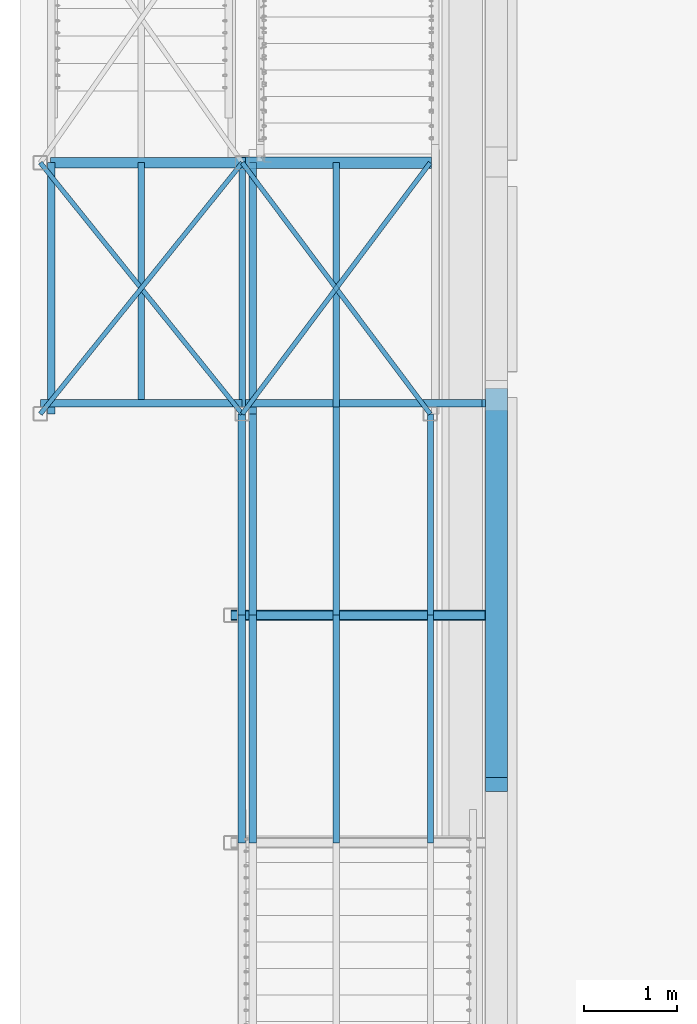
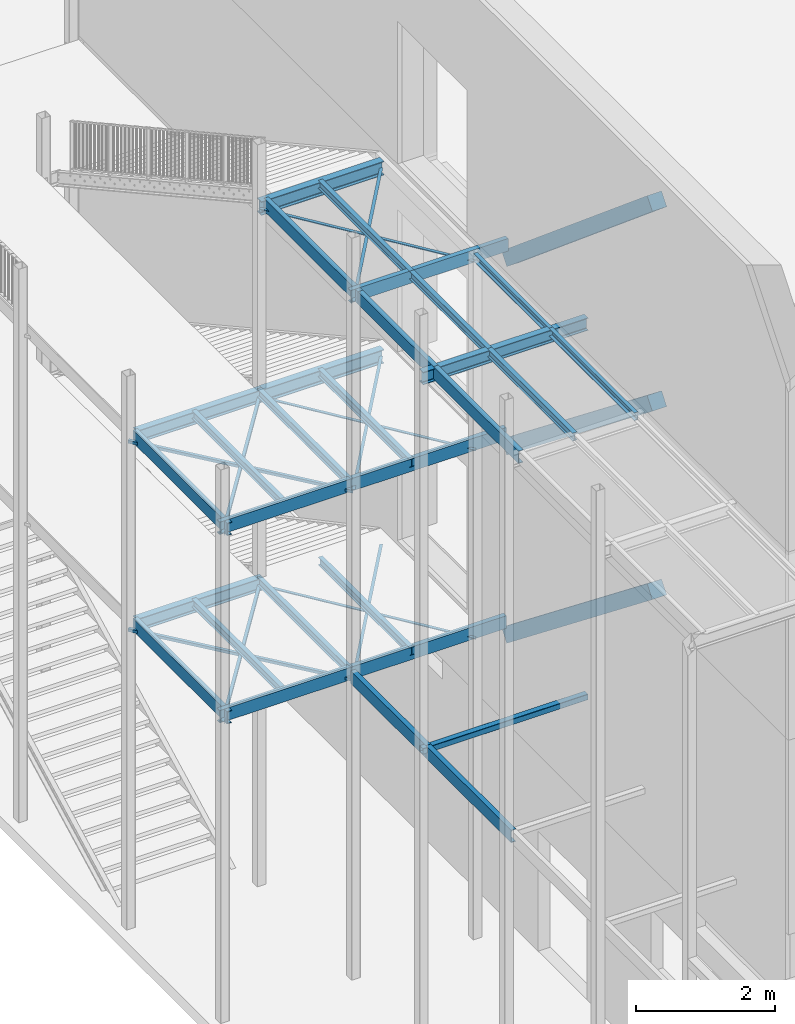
# One storey, part 25 of 78: 39 beams, 3 members, 42 elements without a shape of their own.
"""IFC2X3 building model written with IfcOpenShell, lengths in millimetres."""

from ifc_helpers import new_model, si_unit, frame, origin_with_axes, origin_2d_with_axis, place, context, subcontext, project, spatial, rectangle, hollow_rectangle, i_section, l_section, u_section, extrude, material, type_object, element, aggregate, save


model = new_model("IFC2X3")

# Units and contexts
model_context = context("Model", 3, precision=1e-05, world=origin_with_axes())
body_context = subcontext(model_context, "Body", "Model", "MODEL_VIEW")
ifc_project = project(units=[si_unit("LENGTHUNIT", "METRE", prefix="MILLI"), si_unit("AREAUNIT", "SQUARE_METRE"), si_unit("VOLUMEUNIT", "CUBIC_METRE"), si_unit("MASSUNIT", "GRAM", prefix="KILO"), si_unit("TIMEUNIT", "SECOND"), si_unit("PLANEANGLEUNIT", "RADIAN"), si_unit("SOLIDANGLEUNIT", "STERADIAN"), si_unit("THERMODYNAMICTEMPERATUREUNIT", "DEGREE_CELSIUS"), si_unit("LUMINOUSINTENSITYUNIT", "LUMEN")], contexts=[model_context])

# Site, building, storey
site_placement = place(None, origin_with_axes())
site = spatial("IfcSite", under=ifc_project, at=site_placement, Name="Site", CompositionType="ELEMENT")
building_placement = place(site_placement, origin_with_axes())
building = spatial("IfcBuilding", under=site, at=building_placement, Name="Undefined", CompositionType="ELEMENT")
storey_placement = place(building_placement, origin_with_axes())
storey = spatial("IfcBuildingStorey", under=building, at=storey_placement, Name="Undefined", CompositionType="ELEMENT", Elevation=0.0)

# Assembly, beam
assembly_1_placement = place(storey_placement, origin_with_axes())
assembly_1 = element("IfcElementAssembly", 1, at=assembly_1_placement, inside=storey, AssemblyPlace="NOTDEFINED", PredefinedType="RIGID_FRAME")
ifc_material_1 = material(Name="STEEL/S275JR")
beam_type_1 = type_object("IfcBeamType", Name="UPN220", PredefinedType="NOTDEFINED")
beam_1_placement = place(assembly_1_placement, frame((-33223.4299999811, -955.000000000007, 153260.039237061), z_axis=(0.0, 0.0, -1.0), x_axis=(0.0, -1.0, 0.0)))
beam_1 = element("IfcBeam", 2, at=beam_1_placement, type_object=beam_type_1, material=ifc_material_1, Name="SOLIVE", ObjectType="UPN220", context=body_context, shape_type="SweptSolid", body=[
    extrude(u_section(Depth=220.0, FlangeWidth=80.0, WebThickness=9.0, FlangeThickness=12.5, FilletRadius=12.5, EdgeRadius=6.5, FlangeSlope=0.0798299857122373, at=origin_2d_with_axis()), frame((2447.0, 0.0, 0.0), z_axis=(-1.0, 0.0, 0.0), x_axis=(0.0, -1.0, 0.0)), (0.0, 0.0, 1.0), 2447.0),
])
aggregate(assembly_1, [beam_1])

assembly_2_placement = place(storey_placement, origin_with_axes())
assembly_2 = element("IfcElementAssembly", 3, at=assembly_2_placement, inside=storey, AssemblyPlace="NOTDEFINED", PredefinedType="RIGID_FRAME")
beam_2_placement = place(assembly_2_placement, frame((-33223.43, 1207.99999999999, 153260.039237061), z_axis=(0.0, 0.0, -1.0), x_axis=(0.0, -1.0, 0.0)))
beam_2 = element("IfcBeam", 4, at=beam_2_placement, type_object=beam_type_1, material=ifc_material_1, Name="SOLIVE", ObjectType="UPN220", context=body_context, shape_type="SweptSolid", body=[
    extrude(u_section(Depth=220.0, FlangeWidth=80.0, WebThickness=9.0, FlangeThickness=12.5, FilletRadius=12.5, EdgeRadius=6.5, FlangeSlope=0.0798299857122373, at=origin_2d_with_axis()), frame((2163.0, 0.0, 0.0), z_axis=(-1.0, 0.0, 0.0), x_axis=(0.0, -1.0, 0.0)), (0.0, 0.0, 1.0), 2163.0),
])
aggregate(assembly_2, [beam_2])

assembly_3_placement = place(storey_placement, origin_with_axes())
assembly_3 = element("IfcElementAssembly", 5, at=assembly_3_placement, inside=storey, AssemblyPlace="NOTDEFINED", PredefinedType="RIGID_FRAME")
beam_3_placement = place(assembly_3_placement, frame((-33101.4299999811, -955.000000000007, 159860.039237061), z_axis=(0.0, 0.0, -1.0), x_axis=(0.0, -1.0, 0.0)))
beam_3 = element("IfcBeam", 6, at=beam_3_placement, type_object=beam_type_1, material=ifc_material_1, Name="SOLIVE", ObjectType="UPN220", context=body_context, shape_type="SweptSolid", body=[
    extrude(u_section(Depth=220.0, FlangeWidth=80.0, WebThickness=9.0, FlangeThickness=12.5, FilletRadius=12.5, EdgeRadius=6.5, FlangeSlope=0.0798299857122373, at=origin_2d_with_axis()), frame((2447.0, 0.0, 0.0), z_axis=(-1.0, 0.0, 0.0), x_axis=(0.0, -1.0, 0.0)), (0.0, 0.0, 1.0), 2447.0),
])
aggregate(assembly_3, [beam_3])

assembly_4_placement = place(storey_placement, origin_with_axes())
assembly_4 = element("IfcElementAssembly", 7, at=assembly_4_placement, inside=storey, AssemblyPlace="NOTDEFINED", PredefinedType="RIGID_FRAME")
beam_4_placement = place(assembly_4_placement, frame((-33101.43, 1207.99999999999, 159860.039237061), z_axis=(0.0, 0.0, -1.0), x_axis=(0.0, -1.0, 0.0)))
beam_4 = element("IfcBeam", 8, at=beam_4_placement, type_object=beam_type_1, material=ifc_material_1, Name="SOLIVE", ObjectType="UPN220", context=body_context, shape_type="SweptSolid", body=[
    extrude(u_section(Depth=220.0, FlangeWidth=80.0, WebThickness=9.0, FlangeThickness=12.5, FilletRadius=12.5, EdgeRadius=6.5, FlangeSlope=0.0798299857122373, at=origin_2d_with_axis()), frame((2163.0, 0.0, 0.0), z_axis=(-1.0, 0.0, 0.0), x_axis=(0.0, -1.0, 0.0)), (0.0, 0.0, 1.0), 2163.0),
])
aggregate(assembly_4, [beam_4])

assembly_5_placement = place(storey_placement, origin_with_axes())
assembly_5 = element("IfcElementAssembly", 9, at=assembly_5_placement, inside=storey, AssemblyPlace="NOTDEFINED", PredefinedType="RIGID_FRAME")
beam_5_placement = place(assembly_5_placement, frame((-33216.43, 1323.0, 159860.039237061), z_axis=(0.0, 0.0, -1.0), x_axis=(1.0, 0.0, 0.0)))
beam_5 = element("IfcBeam", 10, at=beam_5_placement, type_object=beam_type_1, material=ifc_material_1, Name="SOLIVE", ObjectType="UPN220", context=body_context, shape_type="SweptSolid", body=[
    extrude(u_section(Depth=220.0, FlangeWidth=80.0, WebThickness=9.0, FlangeThickness=12.5, FilletRadius=12.5, EdgeRadius=6.5, FlangeSlope=0.0798299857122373, at=origin_2d_with_axis()), frame((2613.00000000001, 0.0, 0.0), z_axis=(-1.0, 0.0, 0.0), x_axis=(0.0, -1.0, 0.0)), (0.0, 0.0, 1.0), 2613.0),
])
aggregate(assembly_5, [beam_5])

assembly_6_placement = place(storey_placement, origin_with_axes())
assembly_6 = element("IfcElementAssembly", 11, at=assembly_6_placement, inside=storey, AssemblyPlace="NOTDEFINED", PredefinedType="RIGID_FRAME")
beam_6_placement = place(assembly_6_placement, frame((-33101.43, 3907.99999999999, 159860.039237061), z_axis=(0.0, 0.0, -1.0), x_axis=(0.0, -1.0, 0.0)))
beam_6 = element("IfcBeam", 12, at=beam_6_placement, type_object=beam_type_1, material=ifc_material_1, Name="SOLIVE", ObjectType="UPN220", context=body_context, shape_type="SweptSolid", body=[
    extrude(u_section(Depth=220.0, FlangeWidth=80.0, WebThickness=9.0, FlangeThickness=12.5, FilletRadius=12.5, EdgeRadius=6.5, FlangeSlope=0.0798299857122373, at=origin_2d_with_axis()), frame((2699.99999999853, 0.0, 0.0), z_axis=(-1.0, 0.0, 0.0), x_axis=(0.0, -1.0, 0.0)), (0.0, 0.0, 1.0), 2700.0),
])
aggregate(assembly_6, [beam_6])

assembly_7_placement = place(storey_placement, origin_with_axes())
assembly_7 = element("IfcElementAssembly", 13, at=assembly_7_placement, inside=storey, AssemblyPlace="NOTDEFINED", PredefinedType="RIGID_FRAME")
beam_7_placement = place(assembly_7_placement, frame((-35271.43, 3908.0, 156560.04), z_axis=(0.0, 0.0, -1.0), x_axis=(0.0, -1.0, 0.0)))
beam_7 = element("IfcBeam", 14, at=beam_7_placement, type_object=beam_type_1, material=ifc_material_1, Name="SOLIVE", ObjectType="UPN220", context=body_context, shape_type="SweptSolid", body=[
    extrude(u_section(Depth=220.0, FlangeWidth=80.0, WebThickness=9.0, FlangeThickness=12.5, FilletRadius=12.5, EdgeRadius=6.5, FlangeSlope=0.0798299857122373, at=origin_2d_with_axis()), frame((2699.99999999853, 0.0, 0.0), z_axis=(-1.0, 0.0, 0.0), x_axis=(0.0, -1.0, 0.0)), (0.0, 0.0, 1.0), 2700.0),
])
aggregate(assembly_7, [beam_7])

assembly_8_placement = place(storey_placement, origin_with_axes())
assembly_8 = element("IfcElementAssembly", 15, at=assembly_8_placement, inside=storey, AssemblyPlace="NOTDEFINED", PredefinedType="RIGID_FRAME")
beam_8_placement = place(assembly_8_placement, frame((-33216.43, 1323.0, 156560.04), z_axis=(0.0, 0.0, -1.0), x_axis=(1.0, 0.0, 0.0)))
beam_8 = element("IfcBeam", 16, at=beam_8_placement, type_object=beam_type_1, material=ifc_material_1, Name="SOLIVE", ObjectType="UPN220", context=body_context, shape_type="SweptSolid", body=[
    extrude(u_section(Depth=220.0, FlangeWidth=80.0, WebThickness=9.0, FlangeThickness=12.5, FilletRadius=12.5, EdgeRadius=6.5, FlangeSlope=0.0798299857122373, at=origin_2d_with_axis()), frame((2579.43, 0.0, 0.0), z_axis=(-1.0, 0.0, 0.0), x_axis=(0.0, -1.0, 0.0)), (0.0, 0.0, 1.0), 2579.43),
])
aggregate(assembly_8, [beam_8])

assembly_9_placement = place(storey_placement, origin_with_axes())
assembly_9 = element("IfcElementAssembly", 17, at=assembly_9_placement, inside=storey, AssemblyPlace="NOTDEFINED", PredefinedType="RIGID_FRAME")
beam_9_placement = place(assembly_9_placement, frame((-35386.43, 1323.0, 156560.04), z_axis=(0.0, 0.0, -1.0), x_axis=(1.0, 0.0, 0.0)))
beam_9 = element("IfcBeam", 18, at=beam_9_placement, type_object=beam_type_1, material=ifc_material_1, Name="SOLIVE", ObjectType="UPN220", context=body_context, shape_type="SweptSolid", body=[
    extrude(u_section(Depth=220.0, FlangeWidth=80.0, WebThickness=9.0, FlangeThickness=12.5, FilletRadius=12.5, EdgeRadius=6.5, FlangeSlope=0.0798299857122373, at=origin_2d_with_axis()), frame((2169.99999999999, 0.0, 0.0), z_axis=(-1.0, 0.0, 0.0), x_axis=(0.0, -1.0, 0.0)), (0.0, 0.0, 1.0), 2170.0),
])
aggregate(assembly_9, [beam_9])

assembly_10_placement = place(storey_placement, origin_with_axes())
assembly_10 = element("IfcElementAssembly", 19, at=assembly_10_placement, inside=storey, AssemblyPlace="NOTDEFINED", PredefinedType="RIGID_FRAME")
beam_10_placement = place(assembly_10_placement, frame((-35271.43, 3908.0, 153260.04), z_axis=(0.0, 0.0, -1.0), x_axis=(0.0, -1.0, 0.0)))
beam_10 = element("IfcBeam", 20, at=beam_10_placement, type_object=beam_type_1, material=ifc_material_1, Name="SOLIVE", ObjectType="UPN220", context=body_context, shape_type="SweptSolid", body=[
    extrude(u_section(Depth=220.0, FlangeWidth=80.0, WebThickness=9.0, FlangeThickness=12.5, FilletRadius=12.5, EdgeRadius=6.5, FlangeSlope=0.0798299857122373, at=origin_2d_with_axis()), frame((2699.99999999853, 0.0, 0.0), z_axis=(-1.0, 0.0, 0.0), x_axis=(0.0, -1.0, 0.0)), (0.0, 0.0, 1.0), 2700.0),
])
aggregate(assembly_10, [beam_10])

assembly_11_placement = place(storey_placement, origin_with_axes())
assembly_11 = element("IfcElementAssembly", 21, at=assembly_11_placement, inside=storey, AssemblyPlace="NOTDEFINED", PredefinedType="RIGID_FRAME")
beam_11_placement = place(assembly_11_placement, frame((-33216.43, 1323.0, 153260.04), z_axis=(0.0, 0.0, -1.0), x_axis=(1.0, 0.0, 0.0)))
beam_11 = element("IfcBeam", 22, at=beam_11_placement, type_object=beam_type_1, material=ifc_material_1, Name="SOLIVE", ObjectType="UPN220", context=body_context, shape_type="SweptSolid", body=[
    extrude(u_section(Depth=220.0, FlangeWidth=80.0, WebThickness=9.0, FlangeThickness=12.5, FilletRadius=12.5, EdgeRadius=6.5, FlangeSlope=0.0798299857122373, at=origin_2d_with_axis()), frame((2579.43, 0.0, 0.0), z_axis=(-1.0, 0.0, 0.0), x_axis=(0.0, -1.0, 0.0)), (0.0, 0.0, 1.0), 2579.43),
])
aggregate(assembly_11, [beam_11])

assembly_12_placement = place(storey_placement, origin_with_axes())
assembly_12 = element("IfcElementAssembly", 23, at=assembly_12_placement, inside=storey, AssemblyPlace="NOTDEFINED", PredefinedType="RIGID_FRAME")
beam_12_placement = place(assembly_12_placement, frame((-35386.43, 1323.0, 153260.04), z_axis=(0.0, 0.0, -1.0), x_axis=(1.0, 0.0, 0.0)))
beam_12 = element("IfcBeam", 24, at=beam_12_placement, type_object=beam_type_1, material=ifc_material_1, Name="SOLIVE", ObjectType="UPN220", context=body_context, shape_type="SweptSolid", body=[
    extrude(u_section(Depth=220.0, FlangeWidth=80.0, WebThickness=9.0, FlangeThickness=12.5, FilletRadius=12.5, EdgeRadius=6.5, FlangeSlope=0.0798299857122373, at=origin_2d_with_axis()), frame((2169.99999999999, 0.0, 0.0), z_axis=(-1.0, 0.0, 0.0), x_axis=(0.0, -1.0, 0.0)), (0.0, 0.0, 1.0), 2170.0),
])
aggregate(assembly_12, [beam_12])

assembly_13_placement = place(storey_placement, origin_with_axes())
assembly_13 = element("IfcElementAssembly", 25, at=assembly_13_placement, inside=storey, Name="STAB", AssemblyPlace="NOTDEFINED", PredefinedType="RIGID_FRAME")
beam_type_2 = type_object("IfcBeamType", Name="L50*5", PredefinedType="NOTDEFINED")
beam_13_placement = place(assembly_13_placement, frame((-31196.4299999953, 1208.00000000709, 159805.039237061), z_axis=(0.0, 0.0, -1.0), x_axis=(-0.599050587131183, 0.800711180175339, 0.0)))
beam_13 = element("IfcBeam", 26, at=beam_13_placement, type_object=beam_type_2, material=ifc_material_1, Name="STAB", ObjectType="L50*5", context=body_context, shape_type="SweptSolid", body=[
    extrude(l_section(Depth=50.0, Width=50.0, Thickness=5.0, FilletRadius=7.0, EdgeRadius=3.5, at=origin_2d_with_axis()), frame((3372.00237247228, 1.87183733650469e-13, 0.0), z_axis=(-1.0, 0.0, 0.0), x_axis=(0.0, -1.0, 0.0)), (0.0, 0.0, 1.0), 3372.0),
])
aggregate(assembly_13, [beam_13])

assembly_14_placement = place(storey_placement, origin_with_axes())
assembly_14 = element("IfcElementAssembly", 27, at=assembly_14_placement, inside=storey, Name="STAB", AssemblyPlace="NOTDEFINED", PredefinedType="RIGID_FRAME")
beam_14_placement = place(assembly_14_placement, frame((-31196.4300000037, 3908.00000004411, 159805.039237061), z_axis=(0.0, 0.0, -1.0), x_axis=(-0.599050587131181, -0.800711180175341, 0.0)))
beam_14 = element("IfcBeam", 28, at=beam_14_placement, type_object=beam_type_2, material=ifc_material_1, Name="STAB", ObjectType="L50*5", context=body_context, shape_type="SweptSolid", body=[
    extrude(l_section(Depth=50.0, Width=50.0, Thickness=5.0, FilletRadius=7.0, EdgeRadius=3.5, at=origin_2d_with_axis()), frame((3372.00237247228, 1.87183733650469e-13, 0.0), z_axis=(-1.0, 0.0, 0.0), x_axis=(0.0, -1.0, 0.0)), (0.0, 0.0, 1.0), 3372.0),
])
aggregate(assembly_14, [beam_14])

assembly_15_placement = place(storey_placement, origin_with_axes())
assembly_15 = element("IfcElementAssembly", 29, at=assembly_15_placement, inside=storey, Name="STAB", AssemblyPlace="NOTDEFINED", PredefinedType="RIGID_FRAME")
beam_15_placement = place(assembly_15_placement, frame((-31196.4299999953, 1208.0000000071, 156505.04), z_axis=(0.0, 0.0, -1.0), x_axis=(-0.599050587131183, 0.800711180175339, 0.0)))
beam_15 = element("IfcBeam", 30, at=beam_15_placement, type_object=beam_type_2, material=ifc_material_1, Name="STAB", ObjectType="L50*5", context=body_context, shape_type="SweptSolid", body=[
    extrude(l_section(Depth=50.0, Width=50.0, Thickness=5.0, FilletRadius=7.0, EdgeRadius=3.5, at=origin_2d_with_axis()), frame((3372.00237247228, 1.87183733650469e-13, 0.0), z_axis=(-1.0, 0.0, 0.0), x_axis=(0.0, -1.0, 0.0)), (0.0, 0.0, 1.0), 3372.0),
])
aggregate(assembly_15, [beam_15])

assembly_16_placement = place(storey_placement, origin_with_axes())
assembly_16 = element("IfcElementAssembly", 31, at=assembly_16_placement, inside=storey, Name="STAB", AssemblyPlace="NOTDEFINED", PredefinedType="RIGID_FRAME")
beam_16_placement = place(assembly_16_placement, frame((-31196.4300000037, 3908.00000004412, 156505.04), z_axis=(0.0, 0.0, -1.0), x_axis=(-0.599050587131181, -0.800711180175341, 0.0)))
beam_16 = element("IfcBeam", 32, at=beam_16_placement, type_object=beam_type_2, material=ifc_material_1, Name="STAB", ObjectType="L50*5", context=body_context, shape_type="SweptSolid", body=[
    extrude(l_section(Depth=50.0, Width=50.0, Thickness=5.0, FilletRadius=7.0, EdgeRadius=3.5, at=origin_2d_with_axis()), frame((3372.00237247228, 1.87183733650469e-13, 0.0), z_axis=(-1.0, 0.0, 0.0), x_axis=(0.0, -1.0, 0.0)), (0.0, 0.0, 1.0), 3372.0),
])
aggregate(assembly_16, [beam_16])

assembly_17_placement = place(storey_placement, origin_with_axes())
assembly_17 = element("IfcElementAssembly", 33, at=assembly_17_placement, inside=storey, Name="STAB", AssemblyPlace="NOTDEFINED", PredefinedType="RIGID_FRAME")
beam_17_placement = place(assembly_17_placement, frame((-31196.4299999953, 1208.0000000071, 153205.04), z_axis=(0.0, 0.0, -1.0), x_axis=(-0.599050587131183, 0.800711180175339, 0.0)))
beam_17 = element("IfcBeam", 34, at=beam_17_placement, type_object=beam_type_2, material=ifc_material_1, Name="STAB", ObjectType="L50*5", context=body_context, shape_type="SweptSolid", body=[
    extrude(l_section(Depth=50.0, Width=50.0, Thickness=5.0, FilletRadius=7.0, EdgeRadius=3.5, at=origin_2d_with_axis()), frame((3372.00237247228, 1.87183733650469e-13, 0.0), z_axis=(-1.0, 0.0, 0.0), x_axis=(0.0, -1.0, 0.0)), (0.0, 0.0, 1.0), 3372.0),
])
aggregate(assembly_17, [beam_17])

assembly_18_placement = place(storey_placement, origin_with_axes())
assembly_18 = element("IfcElementAssembly", 35, at=assembly_18_placement, inside=storey, Name="STAB", AssemblyPlace="NOTDEFINED", PredefinedType="RIGID_FRAME")
beam_18_placement = place(assembly_18_placement, frame((-31196.4300000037, 3908.00000004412, 153205.04), z_axis=(0.0, 0.0, -1.0), x_axis=(-0.599050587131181, -0.800711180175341, 0.0)))
beam_18 = element("IfcBeam", 36, at=beam_18_placement, type_object=beam_type_2, material=ifc_material_1, Name="STAB", ObjectType="L50*5", context=body_context, shape_type="SweptSolid", body=[
    extrude(l_section(Depth=50.0, Width=50.0, Thickness=5.0, FilletRadius=7.0, EdgeRadius=3.5, at=origin_2d_with_axis()), frame((3372.00237247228, 1.87183733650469e-13, 0.0), z_axis=(-1.0, 0.0, 0.0), x_axis=(0.0, -1.0, 0.0)), (0.0, 0.0, 1.0), 3372.0),
])
aggregate(assembly_18, [beam_18])

assembly_19_placement = place(storey_placement, origin_with_axes())
assembly_19 = element("IfcElementAssembly", 37, at=assembly_19_placement, inside=storey, Name="STAB", AssemblyPlace="NOTDEFINED", PredefinedType="RIGID_FRAME")
beam_19_placement = place(assembly_19_placement, frame((-35386.4299999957, 1208.00000000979, 156505.04), z_axis=(0.0, 0.0, -1.0), x_axis=(0.626453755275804, 0.779458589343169, 0.0)))
beam_19 = element("IfcBeam", 38, at=beam_19_placement, type_object=beam_type_2, material=ifc_material_1, Name="STAB", ObjectType="L50*5", context=body_context, shape_type="SweptSolid", body=[
    extrude(l_section(Depth=50.0, Width=50.0, Thickness=5.0, FilletRadius=7.0, EdgeRadius=3.5, at=origin_2d_with_axis()), frame((3463.94284017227, 0.0, 2.91038304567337e-11), z_axis=(-1.0, 0.0, 0.0), x_axis=(0.0, -1.0, 0.0)), (0.0, 0.0, 1.0), 3463.94),
])
aggregate(assembly_19, [beam_19])

assembly_20_placement = place(storey_placement, origin_with_axes())
assembly_20 = element("IfcElementAssembly", 39, at=assembly_20_placement, inside=storey, Name="STAB", AssemblyPlace="NOTDEFINED", PredefinedType="RIGID_FRAME")
beam_20_placement = place(assembly_20_placement, frame((-35386.4300000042, 3907.99999997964, 156505.04), z_axis=(0.0, 0.0, -1.0), x_axis=(0.626453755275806, -0.779458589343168, 0.0)))
beam_20 = element("IfcBeam", 40, at=beam_20_placement, type_object=beam_type_2, material=ifc_material_1, Name="STAB", ObjectType="L50*5", context=body_context, shape_type="SweptSolid", body=[
    extrude(l_section(Depth=50.0, Width=50.0, Thickness=5.0, FilletRadius=7.0, EdgeRadius=3.5, at=origin_2d_with_axis()), frame((3463.94284017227, 0.0, 2.91038304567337e-11), z_axis=(-1.0, 0.0, 0.0), x_axis=(0.0, -1.0, 0.0)), (0.0, 0.0, 1.0), 3463.94),
])
aggregate(assembly_20, [beam_20])

assembly_21_placement = place(storey_placement, origin_with_axes())
assembly_21 = element("IfcElementAssembly", 41, at=assembly_21_placement, inside=storey, Name="STAB", AssemblyPlace="NOTDEFINED", PredefinedType="RIGID_FRAME")
beam_21_placement = place(assembly_21_placement, frame((-35386.4299999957, 1208.00000000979, 153205.04), z_axis=(0.0, 0.0, -1.0), x_axis=(0.626453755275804, 0.779458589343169, 0.0)))
beam_21 = element("IfcBeam", 42, at=beam_21_placement, type_object=beam_type_2, material=ifc_material_1, Name="STAB", ObjectType="L50*5", context=body_context, shape_type="SweptSolid", body=[
    extrude(l_section(Depth=50.0, Width=50.0, Thickness=5.0, FilletRadius=7.0, EdgeRadius=3.5, at=origin_2d_with_axis()), frame((3463.94284017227, 0.0, 2.91038304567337e-11), z_axis=(-1.0, 0.0, 0.0), x_axis=(0.0, -1.0, 0.0)), (0.0, 0.0, 1.0), 3463.94),
])
aggregate(assembly_21, [beam_21])

assembly_22_placement = place(storey_placement, origin_with_axes())
assembly_22 = element("IfcElementAssembly", 43, at=assembly_22_placement, inside=storey, Name="STAB", AssemblyPlace="NOTDEFINED", PredefinedType="RIGID_FRAME")
beam_22_placement = place(assembly_22_placement, frame((-35386.4300000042, 3907.99999997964, 153205.04), z_axis=(0.0, 0.0, -1.0), x_axis=(0.626453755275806, -0.779458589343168, 0.0)))
beam_22 = element("IfcBeam", 44, at=beam_22_placement, type_object=beam_type_2, material=ifc_material_1, Name="STAB", ObjectType="L50*5", context=body_context, shape_type="SweptSolid", body=[
    extrude(l_section(Depth=50.0, Width=50.0, Thickness=5.0, FilletRadius=7.0, EdgeRadius=3.5, at=origin_2d_with_axis()), frame((3463.94284017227, 0.0, 2.91038304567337e-11), z_axis=(-1.0, 0.0, 0.0), x_axis=(0.0, -1.0, 0.0)), (0.0, 0.0, 1.0), 3463.94),
])
aggregate(assembly_22, [beam_22])

assembly_23_placement = place(storey_placement, origin_with_axes())
assembly_23 = element("IfcElementAssembly", 45, at=assembly_23_placement, inside=storey, AssemblyPlace="NOTDEFINED", PredefinedType="RIGID_FRAME")
beam_type_3 = type_object("IfcBeamType", Name="IPE140", PredefinedType="NOTDEFINED")
beam_23_placement = place(assembly_23_placement, frame((-32206.4299999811, -3402.00000000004, 159900.039237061), z_axis=(0.0, 0.0, -1.0), x_axis=(0.0, 1.0, 0.0)))
beam_23 = element("IfcBeam", 46, at=beam_23_placement, type_object=beam_type_3, material=ifc_material_1, Name="SOLIVE", ObjectType="IPE140", context=body_context, shape_type="SweptSolid", body=[
    extrude(i_section(OverallWidth=73.0, OverallDepth=140.0, WebThickness=4.699999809, FlangeThickness=6.900000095, FilletRadius=7.0, at=origin_2d_with_axis()), frame((2447.0, 0.0, 0.0), z_axis=(-1.0, 0.0, 0.0), x_axis=(0.0, -1.0, 0.0)), (0.0, 0.0, 1.0), 2447.0),
])
aggregate(assembly_23, [beam_23])

assembly_24_placement = place(storey_placement, origin_with_axes())
assembly_24 = element("IfcElementAssembly", 47, at=assembly_24_placement, inside=storey, AssemblyPlace="NOTDEFINED", PredefinedType="RIGID_FRAME")
beam_24_placement = place(assembly_24_placement, frame((-32206.43, -955.000000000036, 159900.039237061), z_axis=(0.0, 0.0, -1.0), x_axis=(0.0, 1.0, 0.0)))
beam_24 = element("IfcBeam", 48, at=beam_24_placement, type_object=beam_type_3, material=ifc_material_1, Name="SOLIVE", ObjectType="IPE140", context=body_context, shape_type="SweptSolid", body=[
    extrude(i_section(OverallWidth=73.0, OverallDepth=140.0, WebThickness=4.699999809, FlangeThickness=6.900000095, FilletRadius=7.0, at=origin_2d_with_axis()), frame((2238.0, 0.0, 0.0), z_axis=(-1.0, 0.0, 0.0), x_axis=(0.0, -1.0, 0.0)), (0.0, 0.0, 1.0), 2238.0),
])
aggregate(assembly_24, [beam_24])

assembly_25_placement = place(storey_placement, origin_with_axes())
assembly_25 = element("IfcElementAssembly", 49, at=assembly_25_placement, inside=storey, AssemblyPlace="NOTDEFINED", PredefinedType="RIGID_FRAME")
beam_25_placement = place(assembly_25_placement, frame((-32206.43, 1282.99999999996, 159900.039237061), z_axis=(0.0, 0.0, -1.0), x_axis=(0.0, 1.0, 0.0)))
beam_25 = element("IfcBeam", 50, at=beam_25_placement, type_object=beam_type_3, material=ifc_material_1, Name="SOLIVE", ObjectType="IPE140", context=body_context, shape_type="SweptSolid", body=[
    extrude(i_section(OverallWidth=73.0, OverallDepth=140.0, WebThickness=4.699999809, FlangeThickness=6.900000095, FilletRadius=7.0, at=origin_2d_with_axis()), frame((2625.0, 0.0, 0.0), z_axis=(-1.0, 0.0, 0.0), x_axis=(0.0, -1.0, 0.0)), (0.0, 0.0, 1.0), 2625.0),
])
aggregate(assembly_25, [beam_25])

assembly_26_placement = place(storey_placement, origin_with_axes())
assembly_26 = element("IfcElementAssembly", 51, at=assembly_26_placement, inside=storey, AssemblyPlace="NOTDEFINED", PredefinedType="RIGID_FRAME")
beam_26_placement = place(assembly_26_placement, frame((-32206.43, 1282.99999999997, 156600.04), z_axis=(0.0, 0.0, -1.0), x_axis=(0.0, 1.0, 0.0)))
beam_26 = element("IfcBeam", 52, at=beam_26_placement, type_object=beam_type_3, material=ifc_material_1, Name="SOLIVE", ObjectType="IPE140", context=body_context, shape_type="SweptSolid", body=[
    extrude(i_section(OverallWidth=73.0, OverallDepth=140.0, WebThickness=4.699999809, FlangeThickness=6.900000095, FilletRadius=7.0, at=origin_2d_with_axis()), frame((2625.0, 0.0, 0.0), z_axis=(-1.0, 0.0, 0.0), x_axis=(0.0, -1.0, 0.0)), (0.0, 0.0, 1.0), 2625.0),
])
aggregate(assembly_26, [beam_26])

assembly_27_placement = place(storey_placement, origin_with_axes())
assembly_27 = element("IfcElementAssembly", 53, at=assembly_27_placement, inside=storey, AssemblyPlace="NOTDEFINED", PredefinedType="RIGID_FRAME")
beam_27_placement = place(assembly_27_placement, frame((-32206.43, 1282.99999999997, 153300.04), z_axis=(0.0, 0.0, -1.0), x_axis=(0.0, 1.0, 0.0)))
beam_27 = element("IfcBeam", 54, at=beam_27_placement, type_object=beam_type_3, material=ifc_material_1, Name="SOLIVE", ObjectType="IPE140", context=body_context, shape_type="SweptSolid", body=[
    extrude(i_section(OverallWidth=73.0, OverallDepth=140.0, WebThickness=4.699999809, FlangeThickness=6.900000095, FilletRadius=7.0, at=origin_2d_with_axis()), frame((2625.0, 0.0, 0.0), z_axis=(-1.0, 0.0, 0.0), x_axis=(0.0, -1.0, 0.0)), (0.0, 0.0, 1.0), 2625.0),
])
aggregate(assembly_27, [beam_27])

assembly_28_placement = place(storey_placement, origin_with_axes())
assembly_28 = element("IfcElementAssembly", 55, at=assembly_28_placement, inside=storey, AssemblyPlace="NOTDEFINED", PredefinedType="RIGID_FRAME")
beam_28_placement = place(assembly_28_placement, frame((-33216.43, 3908.0, 156600.04), z_axis=(0.0, 0.0, -1.0), x_axis=(0.0, -1.0, 0.0)))
beam_28 = element("IfcBeam", 56, at=beam_28_placement, type_object=beam_type_3, material=ifc_material_1, Name="SOLIVE", ObjectType="IPE140", context=body_context, shape_type="SweptSolid", body=[
    extrude(i_section(OverallWidth=73.0, OverallDepth=140.0, WebThickness=4.699999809, FlangeThickness=6.900000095, FilletRadius=7.0, at=origin_2d_with_axis()), frame((2625.0, 0.0, 0.0), z_axis=(-1.0, 0.0, 0.0), x_axis=(0.0, -1.0, 0.0)), (0.0, 0.0, 1.0), 2625.0),
])
aggregate(assembly_28, [beam_28])

assembly_29_placement = place(storey_placement, origin_with_axes())
assembly_29 = element("IfcElementAssembly", 57, at=assembly_29_placement, inside=storey, AssemblyPlace="NOTDEFINED", PredefinedType="RIGID_FRAME")
beam_29_placement = place(assembly_29_placement, frame((-34301.43, 3908.0, 156600.04), z_axis=(0.0, 0.0, -1.0), x_axis=(0.0, -1.0, 0.0)))
beam_29 = element("IfcBeam", 58, at=beam_29_placement, type_object=beam_type_3, material=ifc_material_1, Name="SOLIVE", ObjectType="IPE140", context=body_context, shape_type="SweptSolid", body=[
    extrude(i_section(OverallWidth=73.0, OverallDepth=140.0, WebThickness=4.699999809, FlangeThickness=6.900000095, FilletRadius=7.0, at=origin_2d_with_axis()), frame((2625.0, 0.0, 0.0), z_axis=(-1.0, 0.0, 0.0), x_axis=(0.0, -1.0, 0.0)), (0.0, 0.0, 1.0), 2625.0),
])
aggregate(assembly_29, [beam_29])

assembly_30_placement = place(storey_placement, origin_with_axes())
assembly_30 = element("IfcElementAssembly", 59, at=assembly_30_placement, inside=storey, AssemblyPlace="NOTDEFINED", PredefinedType="RIGID_FRAME")
beam_30_placement = place(assembly_30_placement, frame((-33216.43, 3908.0, 153300.04), z_axis=(0.0, 0.0, -1.0), x_axis=(0.0, -1.0, 0.0)))
beam_30 = element("IfcBeam", 60, at=beam_30_placement, type_object=beam_type_3, material=ifc_material_1, Name="SOLIVE", ObjectType="IPE140", context=body_context, shape_type="SweptSolid", body=[
    extrude(i_section(OverallWidth=73.0, OverallDepth=140.0, WebThickness=4.699999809, FlangeThickness=6.900000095, FilletRadius=7.0, at=origin_2d_with_axis()), frame((2625.0, 0.0, 0.0), z_axis=(-1.0, 0.0, 0.0), x_axis=(0.0, -1.0, 0.0)), (0.0, 0.0, 1.0), 2625.0),
])
aggregate(assembly_30, [beam_30])

assembly_31_placement = place(storey_placement, origin_with_axes())
assembly_31 = element("IfcElementAssembly", 61, at=assembly_31_placement, inside=storey, AssemblyPlace="NOTDEFINED", PredefinedType="RIGID_FRAME")
beam_31_placement = place(assembly_31_placement, frame((-34301.43, 3908.0, 153300.04), z_axis=(0.0, 0.0, -1.0), x_axis=(0.0, -1.0, 0.0)))
beam_31 = element("IfcBeam", 62, at=beam_31_placement, type_object=beam_type_3, material=ifc_material_1, Name="SOLIVE", ObjectType="IPE140", context=body_context, shape_type="SweptSolid", body=[
    extrude(i_section(OverallWidth=73.0, OverallDepth=140.0, WebThickness=4.699999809, FlangeThickness=6.900000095, FilletRadius=7.0, at=origin_2d_with_axis()), frame((2625.0, 0.0, 0.0), z_axis=(-1.0, 0.0, 0.0), x_axis=(0.0, -1.0, 0.0)), (0.0, 0.0, 1.0), 2625.0),
])
aggregate(assembly_31, [beam_31])

assembly_32_placement = place(storey_placement, origin_with_axes())
assembly_32 = element("IfcElementAssembly", 63, at=assembly_32_placement, inside=storey, AssemblyPlace="NOTDEFINED", PredefinedType="RIGID_FRAME")
beam_type_4 = type_object("IfcBeamType", Name="UPN140", PredefinedType="NOTDEFINED")
beam_32_placement = place(assembly_32_placement, frame((-31192.8599999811, -955.000000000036, 159900.039237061), z_axis=(0.0, 0.0, 1.0), x_axis=(0.0, -1.0, 0.0)))
beam_32 = element("IfcBeam", 64, at=beam_32_placement, type_object=beam_type_4, material=ifc_material_1, Name="SOLIVE", ObjectType="UPN140", context=body_context, shape_type="SweptSolid", body=[
    extrude(u_section(Depth=140.0, FlangeWidth=60.0, WebThickness=7.0, FlangeThickness=10.0, FilletRadius=10.0, EdgeRadius=5.0, FlangeSlope=0.0798299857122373, at=origin_2d_with_axis()), frame((2447.0, 0.0, 0.0), z_axis=(-1.0, 0.0, 0.0), x_axis=(0.0, -1.0, 0.0)), (0.0, 0.0, 1.0), 2447.0),
])
aggregate(assembly_32, [beam_32])

assembly_33_placement = place(storey_placement, origin_with_axes())
assembly_33 = element("IfcElementAssembly", 65, at=assembly_33_placement, inside=storey, AssemblyPlace="NOTDEFINED", PredefinedType="RIGID_FRAME")
beam_33_placement = place(assembly_33_placement, frame((-31192.86, 1207.99999999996, 159900.039237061), z_axis=(0.0, 0.0, 1.0), x_axis=(0.0, -1.0, 0.0)))
beam_33 = element("IfcBeam", 66, at=beam_33_placement, type_object=beam_type_4, material=ifc_material_1, Name="SOLIVE", ObjectType="UPN140", context=body_context, shape_type="SweptSolid", body=[
    extrude(u_section(Depth=140.0, FlangeWidth=60.0, WebThickness=7.0, FlangeThickness=10.0, FilletRadius=10.0, EdgeRadius=5.0, FlangeSlope=0.0798299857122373, at=origin_2d_with_axis()), frame((2163.0, 0.0, 0.0), z_axis=(-1.0, 0.0, 0.0), x_axis=(0.0, -1.0, 0.0)), (0.0, 0.0, 1.0), 2163.0),
])
aggregate(assembly_33, [beam_33])

# Assembly, member
assembly_34_placement = place(storey_placement, origin_with_axes())
assembly_34 = element("IfcElementAssembly", 67, at=assembly_34_placement, inside=storey, Name="POUTRE", AssemblyPlace="NOTDEFINED", PredefinedType="NOTDEFINED")
ifc_material_2 = material(Name="TIMBER/CHENE")
member_type = type_object("IfcMemberType", Name="240*240", PredefinedType="NOTDEFINED")
member_1_placement = place(assembly_34_placement, frame((-30483.4327932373, -2775.00119148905, 156240.043102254), z_axis=(0.0, 0.619644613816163, 0.784882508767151), x_axis=(0.0, 0.784882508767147, -0.619644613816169)))
member_1 = element("IfcMember", 68, at=member_1_placement, type_object=member_type, material=ifc_material_2, Name="POUTRE", ObjectType="240*240", context=body_context, shape_type="SweptSolid", body=[
    extrude(rectangle(XDim=240.0, YDim=240.0, at=origin_2d_with_axis()), frame((5325.63824287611, 0.0, 0.0), z_axis=(-1.0, 0.0, 0.0), x_axis=(0.0, -1.0, 0.0)), (0.0, 0.0, 1.0), 5325.64),
])
aggregate(assembly_34, [member_1])

assembly_35_placement = place(storey_placement, origin_with_axes())
assembly_35 = element("IfcElementAssembly", 69, at=assembly_35_placement, inside=storey, Name="POUTRE", AssemblyPlace="NOTDEFINED", PredefinedType="NOTDEFINED")
member_2_placement = place(assembly_35_placement, frame((-30483.4327932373, -2775.00119183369, 159540.046154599), z_axis=(0.0, 0.619644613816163, 0.784882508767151), x_axis=(0.0, 0.784882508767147, -0.619644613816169)))
member_2 = element("IfcMember", 70, at=member_2_placement, type_object=member_type, material=ifc_material_2, Name="POUTRE", ObjectType="240*240", context=body_context, shape_type="SweptSolid", body=[
    extrude(rectangle(XDim=240.0, YDim=240.0, at=origin_2d_with_axis()), frame((5325.63824287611, 0.0, 0.0), z_axis=(-1.0, 0.0, 0.0), x_axis=(0.0, -1.0, 0.0)), (0.0, 0.0, 1.0), 5325.64),
])
aggregate(assembly_35, [member_2])

assembly_36_placement = place(storey_placement, origin_with_axes())
assembly_36 = element("IfcElementAssembly", 71, at=assembly_36_placement, inside=storey, Name="POUTRE", AssemblyPlace="NOTDEFINED", PredefinedType="NOTDEFINED")
member_3_placement = place(assembly_36_placement, frame((-30483.4327932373, -2774.99826653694, 163042.219327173), z_axis=(0.0, 0.642222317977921, 0.766518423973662), x_axis=(0.0, 0.766518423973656, -0.642222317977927)))
member_3 = element("IfcMember", 72, at=member_3_placement, type_object=member_type, material=ifc_material_2, Name="POUTRE", ObjectType="240*240", context=body_context, shape_type="SweptSolid", body=[
    extrude(rectangle(XDim=240.0, YDim=240.0, at=origin_2d_with_axis()), frame((5453.22376859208, 0.0, 0.0), z_axis=(-1.0, 0.0, 0.0), x_axis=(0.0, -1.0, 0.0)), (0.0, 0.0, 1.0), 5453.22),
])
aggregate(assembly_36, [member_3])

# Assembly, beam
assembly_37_placement = place(storey_placement, origin_with_axes())
assembly_37 = element("IfcElementAssembly", 73, at=assembly_37_placement, inside=storey, AssemblyPlace="NOTDEFINED", PredefinedType="RIGID_FRAME")
beam_type_5 = type_object("IfcBeamType", Name="IPE240", PredefinedType="NOTDEFINED")
beam_34_placement = place(assembly_37_placement, frame((-31182.86, 3908.00000000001, 159850.039237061), z_axis=(0.0, 0.0, 1.0), x_axis=(-1.0, 0.0, 0.0)))
beam_34 = element("IfcBeam", 74, at=beam_34_placement, type_object=beam_type_5, material=ifc_material_1, Name="SOLIVE", ObjectType="IPE240", context=body_context, shape_type="SweptSolid", body=[
    extrude(i_section(OverallWidth=120.0, OverallDepth=240.0, WebThickness=6.199999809, FlangeThickness=9.800000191, FilletRadius=15.0, at=origin_2d_with_axis()), frame((2033.57, 0.0, 0.0), z_axis=(-1.0, 0.0, 0.0), x_axis=(0.0, -1.0, 0.0)), (0.0, 0.0, 1.0), 2033.57),
])
aggregate(assembly_37, [beam_34])

assembly_38_placement = place(storey_placement, origin_with_axes())
assembly_38 = element("IfcElementAssembly", 75, at=assembly_38_placement, inside=storey, AssemblyPlace="NOTDEFINED", PredefinedType="RIGID_FRAME")
beam_35_placement = place(assembly_38_placement, frame((-31182.86, 3908.0, 156550.04), z_axis=(0.0, 0.0, 1.0), x_axis=(-1.0, 0.0, 0.0)))
beam_35 = element("IfcBeam", 76, at=beam_35_placement, type_object=beam_type_5, material=ifc_material_1, Name="SOLIVE", ObjectType="IPE240", context=body_context, shape_type="SweptSolid", body=[
    extrude(i_section(OverallWidth=120.0, OverallDepth=240.0, WebThickness=6.199999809, FlangeThickness=9.800000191, FilletRadius=15.0, at=origin_2d_with_axis()), frame((2000.0, 0.0, 0.0), z_axis=(-1.0, 0.0, 0.0), x_axis=(0.0, -1.0, 0.0)), (0.0, 0.0, 1.0), 2000.0),
])
aggregate(assembly_38, [beam_35])

assembly_39_placement = place(storey_placement, origin_with_axes())
assembly_39 = element("IfcElementAssembly", 77, at=assembly_39_placement, inside=storey, Name="STAB", AssemblyPlace="NOTDEFINED", PredefinedType="RIGID_FRAME")
beam_type_6 = type_object("IfcBeamType", Name="IPE220", PredefinedType="NOTDEFINED")
beam_36_placement = place(assembly_39_placement, frame((-33338.4300306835, -955.0, 159860.04), z_axis=(0.0, 0.0, -1.0), x_axis=(1.0, 0.0, 0.0)))
beam_36 = element("IfcBeam", 78, at=beam_36_placement, type_object=beam_type_6, material=ifc_material_1, Name="CONSOLE", ObjectType="IPE220", context=body_context, shape_type="SweptSolid", body=[
    extrude(i_section(OverallWidth=110.0, OverallDepth=220.0, WebThickness=5.900000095, FlangeThickness=9.199999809, FilletRadius=12.0, at=origin_2d_with_axis()), frame((2735.00000000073, 1.81898940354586e-12, 1.44789694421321e-19), z_axis=(-1.0, 0.0, 0.0), x_axis=(0.0, -1.0, 0.0)), (0.0, 0.0, 1.0), 2735.0),
])
aggregate(assembly_39, [beam_36])

assembly_40_placement = place(storey_placement, origin_with_axes())
assembly_40 = element("IfcElementAssembly", 79, at=assembly_40_placement, inside=storey, AssemblyPlace="NOTDEFINED", PredefinedType="RIGID_FRAME")
beam_37_placement = place(assembly_40_placement, frame((-33182.86, 3908.0, 156560.04), z_axis=(0.0, 0.0, 1.0), x_axis=(-1.0, 0.0, 0.0)))
beam_37 = element("IfcBeam", 80, at=beam_37_placement, type_object=beam_type_6, material=ifc_material_1, Name="SOLIVE", ObjectType="IPE220", context=body_context, shape_type="SweptSolid", body=[
    extrude(i_section(OverallWidth=110.0, OverallDepth=220.0, WebThickness=5.900000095, FlangeThickness=9.199999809, FilletRadius=12.0, at=origin_2d_with_axis()), frame((2095.0, 0.0, 0.0), z_axis=(-1.0, 0.0, 0.0), x_axis=(0.0, -1.0, 0.0)), (0.0, 0.0, 1.0), 2095.0),
])
aggregate(assembly_40, [beam_37])

assembly_41_placement = place(storey_placement, origin_with_axes())
assembly_41 = element("IfcElementAssembly", 81, at=assembly_41_placement, inside=storey, AssemblyPlace="NOTDEFINED", PredefinedType="RIGID_FRAME")
beam_38_placement = place(assembly_41_placement, frame((-33182.86, 3908.0, 153260.04), z_axis=(0.0, 0.0, 1.0), x_axis=(-1.0, 0.0, 0.0)))
beam_38 = element("IfcBeam", 82, at=beam_38_placement, type_object=beam_type_6, material=ifc_material_1, Name="SOLIVE", ObjectType="IPE220", context=body_context, shape_type="SweptSolid", body=[
    extrude(i_section(OverallWidth=110.0, OverallDepth=220.0, WebThickness=5.900000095, FlangeThickness=9.199999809, FilletRadius=12.0, at=origin_2d_with_axis()), frame((2095.0, 0.0, 0.0), z_axis=(-1.0, 0.0, 0.0), x_axis=(0.0, -1.0, 0.0)), (0.0, 0.0, 1.0), 2095.0),
])
aggregate(assembly_41, [beam_38])

assembly_42_placement = place(storey_placement, origin_with_axes())
assembly_42 = element("IfcElementAssembly", 83, at=assembly_42_placement, inside=storey, Name="CONSOLE", AssemblyPlace="NOTDEFINED", PredefinedType="RIGID_FRAME")
beam_type_7 = type_object("IfcBeamType", Name="TUBE-C-100*100*4", PredefinedType="NOTDEFINED")
beam_39_placement = place(assembly_42_placement, frame((-33338.4300139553, -955.0, 153320.04), z_axis=(0.0, 0.0, -1.0), x_axis=(1.0, 0.0, 0.0)))
beam_39 = element("IfcBeam", 84, at=beam_39_placement, type_object=beam_type_7, material=ifc_material_1, Name="CONSOLE", ObjectType="TUBE-C-100*100*4", context=body_context, shape_type="SweptSolid", body=[
    extrude(hollow_rectangle(XDim=100.0, YDim=100.0, WallThickness=4.0, InnerFilletRadius=4.0, OuterFilletRadius=8.0, at=origin_2d_with_axis()), frame((2733.43, 0.0, 0.0), z_axis=(-1.0, 0.0, 0.0), x_axis=(0.0, -1.0, 0.0)), (0.0, 0.0, 1.0), 2733.43),
])
aggregate(assembly_42, [beam_39])

save(model, "model.ifc")
